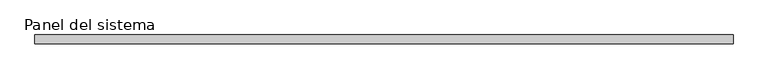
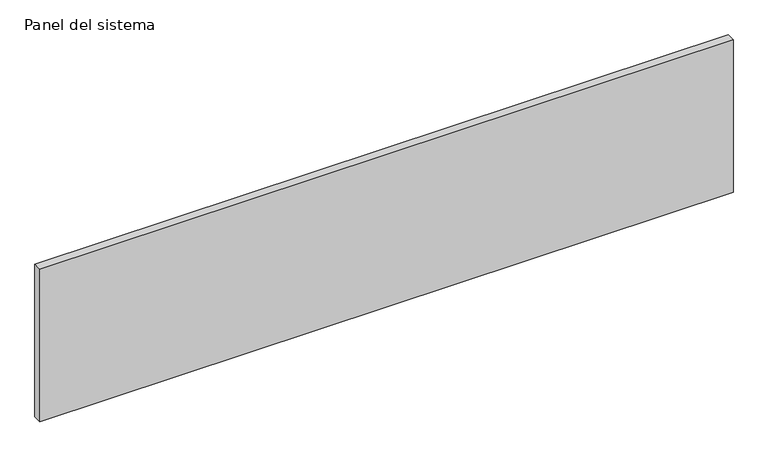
"""IFC4 building model written with IfcOpenShell, lengths in millimetres: plate geometry, Panel del sistema : HIANSA - CHAPA PERFILADA CUBIERTA - MT53MA6 Hor."""

from ifc_helpers import new_model, si_unit, origin, origin_with_axes, place, context, project, spatial, polyline, outline, extrude, source, transform, mapped, element, save


def panel_del_sistema_744a27d1(model_context):
    return source(origin(), model_context, "Body", "SweptSolid", [
        extrude(outline(polyline([(2128.0, -52.5), (-2128.0, -52.5), (-2128.0, 0.5), (2128.0, 0.5), (2128.0, -52.5)])), origin_with_axes(), (0.0, 0.0, 1.0), 990.0),
    ])


if __name__ == "__main__":
    model = new_model("IFC4")
    model_context = context("Model", 3, world=origin())
    ifc_project = project(units=[si_unit("LENGTHUNIT", "METRE", prefix="MILLI")], contexts=[model_context])
    site = spatial("IfcSite", under=ifc_project)
    building = spatial("IfcBuilding", under=site)
    placement = place(None, origin())
    panel_del_sistema_shape = panel_del_sistema_744a27d1(model_context)
    element("IfcPlate", 1, ObjectType="Panel del sistema : HIANSA - CHAPA PERFILADA CUBIERTA - MT53MA6 Hor", at=placement, inside=building, context=model_context, shape_type="MappedRepresentation", body=[
        mapped(panel_del_sistema_shape, transform((0.0, 0.0, 0.0), x_axis=(1.0, 0.0, 0.0), y_axis=(0.0, 1.0, 0.0), z_axis=(0.0, 0.0, 1.0))),
    ])
    save(model, "model.ifc")
